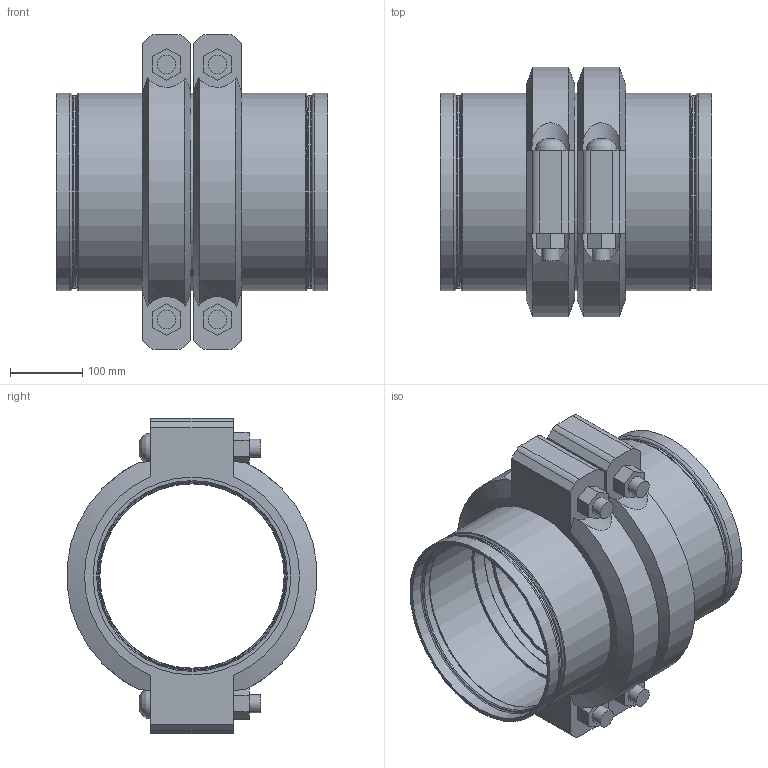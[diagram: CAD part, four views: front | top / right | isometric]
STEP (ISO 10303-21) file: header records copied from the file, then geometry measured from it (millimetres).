
FILE_DESCRIPTION(/* description */ ('VIC STRENGTHIN 100 EXPANSION JOINT 2 COUPLINGS COMPRESSED STYLE E155 (ST1)','CAx-IF Rec.Pracs.---Representation and Presentation of Product Manufacturing Information (PMI)---4.0---2014-10-13'),/* implementation_level */ '2;1');
FILE_NAME(/* name */ 'C:\Users\Vjadhav\AppData\Roaming\Autodesk\ApplicationPlugins\Victaulic.Temp\A523\Victaulic_SS-StrengThin 100_Expansion Joint_Compressed_2 Couplings_Style E155 (ST1)_10 (250).stp',/* time_stamp */ '2021-07-23T12:29:27+06:00',/* author */ ('kkamble'),/* organization */ ('Victaulic'),/* preprocessor_version */ 'ST-DEVELOPER v17.2',/* originating_system */ 'Autodesk Inventor 2019',/* authorisation */ '');
FILE_SCHEMA (('AP242_MANAGED_MODEL_BASED_3D_ENGINEERING_MIM_LF { 1 0 10303 442 1 1 4 }'));
Length unit declared in the file: inch
Products named in the file (4): E155-10.0; E494G-10.0; Nipple-10.0; 077-10.0
Assembly tree (5 placements, depth 2):
  E155-10.0
    E494G-10.0  x2
    Nipple-10.0
    077-10.0  x2
Bounding box: 375.41 x 344.9 x 435.1 mm (x, y, z)
Volume: 7633913 mm3; surface area: 1237154.9 mm2
Topology: 5 solids, 9 shells, 196 faces, 538 edges, 386 vertices
Faces by surface type: plane 88, cylinder 60, torus 32, cone 12, bspline 4
Full cylindrical faces by diameter (mm): 25.4 x8, 27.432 x4, 254.508 x1, 255.626 x2, 258.724 x2, 263.5 x6, 265.176 x2, 268.275 x4, 273.05 x11
Entity records: 3922 total; most frequent: CARTESIAN_POINT 826, DIRECTION 657, ORIENTED_EDGE 568, EDGE_CURVE 284, AXIS2_PLACEMENT_3D 282, VERTEX_POINT 205, CIRCLE 171, EDGE_LOOP 129
